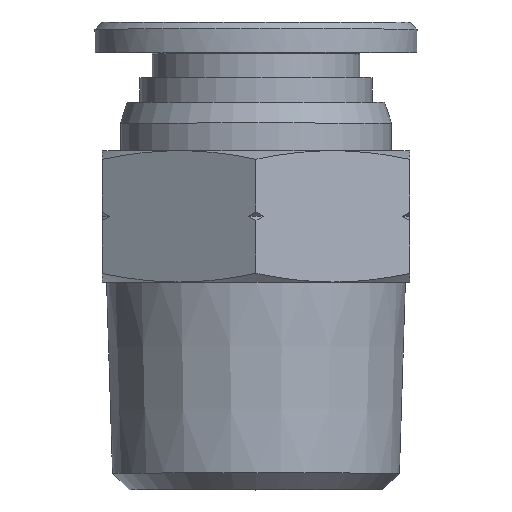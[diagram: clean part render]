
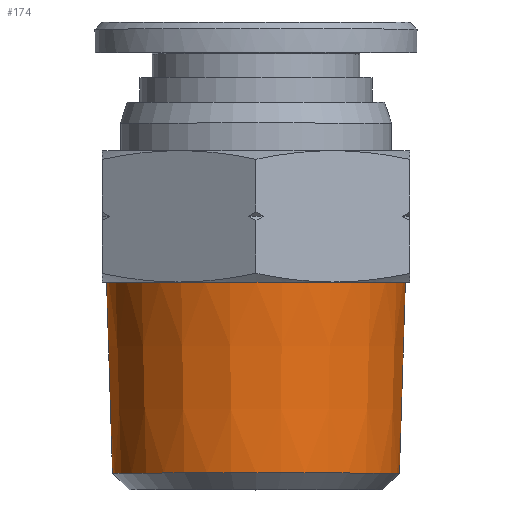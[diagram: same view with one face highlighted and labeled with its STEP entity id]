
A CAD part, top view. The second image highlights one B-rep face of the part: STEP entity #174.
In plain terms, the highlighted conical face has half-angle 1.791 degrees and reference radius 10.565 mm.
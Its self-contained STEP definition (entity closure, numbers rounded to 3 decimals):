
#112=CARTESIAN_POINT('',(10.368,1.199,0.));
#113=VERTEX_POINT('',#112);
#114=CARTESIAN_POINT('',(0.0,1.199,0.));
#115=DIRECTION('',(0.0,-1.0,0.0));
#116=DIRECTION('',(-1.0,0.0,0.0));
#117=AXIS2_PLACEMENT_3D('',#114,#115,#116);
#118=CIRCLE('',#117,10.368);
#119=EDGE_CURVE('',#113,#113,#118,.T.);
#155=CARTESIAN_POINT('',(0.0,7.5,0.0));
#156=DIRECTION('',(0.0,1.0,0.0));
#157=DIRECTION('',(1.0,0.0,0.0));
#158=AXIS2_PLACEMENT_3D('',#155,#156,#157);
#159=CONICAL_SURFACE('',#158,10.565,1.791);
#160=CARTESIAN_POINT('',(10.8,15.0,0.0));
#161=VERTEX_POINT('',#160);
#162=CARTESIAN_POINT('',(0.0,15.0,0.0));
#163=DIRECTION('',(0.0,-1.0,0.0));
#164=DIRECTION('',(1.0,0.0,0.0));
#165=AXIS2_PLACEMENT_3D('',#162,#163,#164);
#166=CIRCLE('',#165,10.8);
#167=EDGE_CURVE('',#161,#161,#166,.T.);
#168=ORIENTED_EDGE('',*,*,#167,.T.);
#169=EDGE_LOOP('',(#168));
#170=FACE_OUTER_BOUND('',#169,.T.);
#171=ORIENTED_EDGE('',*,*,#119,.F.);
#172=EDGE_LOOP('',(#171));
#173=FACE_BOUND('',#172,.T.);
#174=ADVANCED_FACE('',(#170,#173),#159,.T.);
